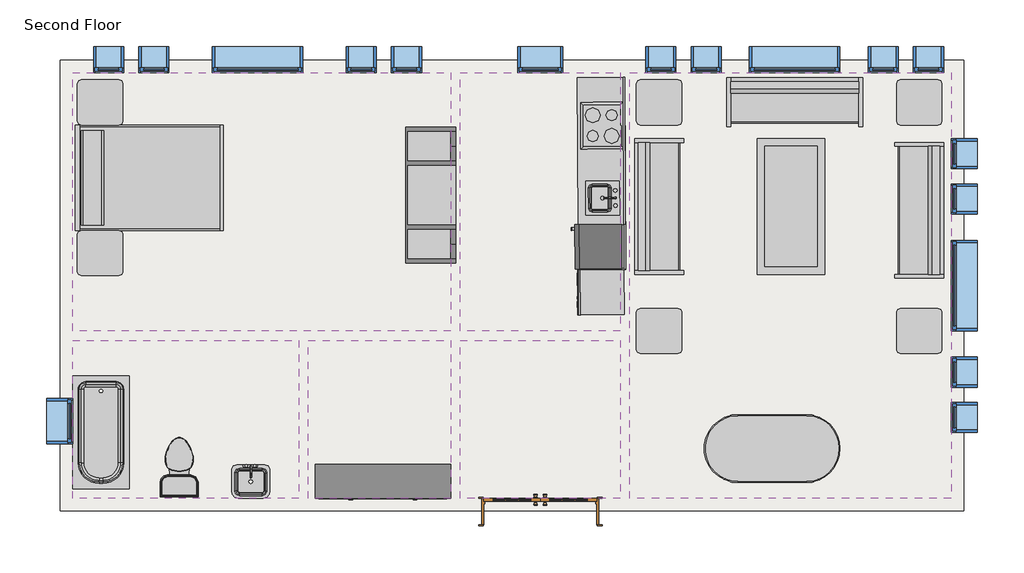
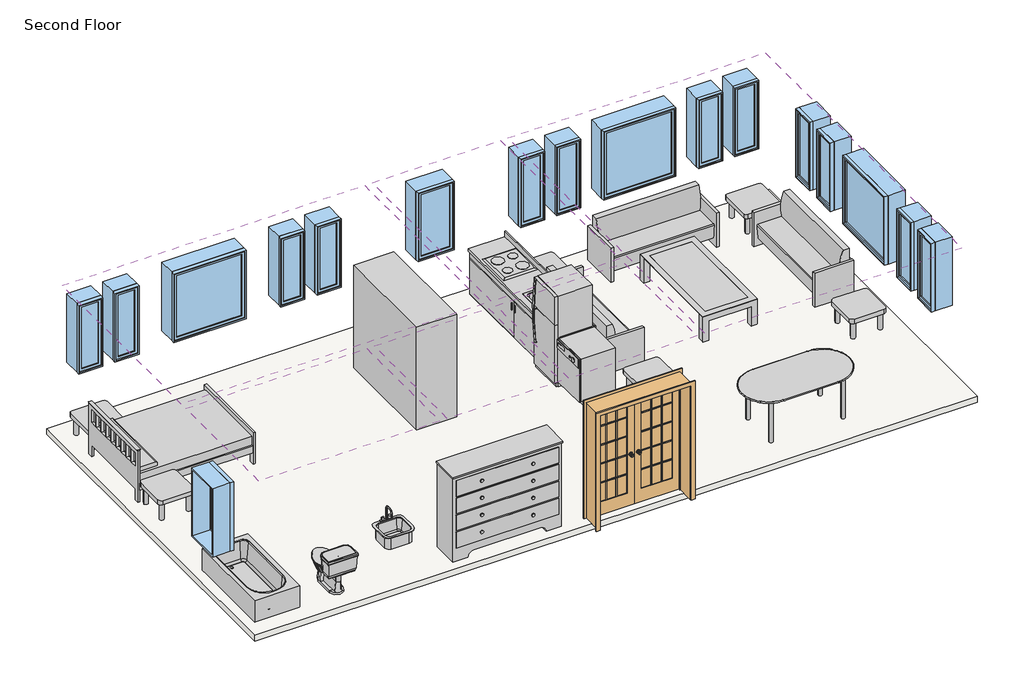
# One storey, incomplete: 17 windows, 15 furniture elements, 6 coverings, 4 flow terminals, 4 proxies, 1 door, 1 slab.
"""IFC4 building model written with IfcOpenShell, lengths in millimetres."""

from ifc_helpers import new_model, si_unit, frame, origin, place, context, project, spatial, polyline, outline, extrude, transform, mapped, element, save
from components import proxy_a6faaae8, proxy_45b28599, proxy_a6516e2b, proxy_c523a7b7, door_bfa3c7dc, flow_terminal_871c2e40, flow_terminal_62a433f7, toilet_domestic_3d_toilet_domestic_3d_f7549cf7, toilet_domestic_3d_toilet_domestic_3d_183bbd19, tub_rectangular_3d_tub_rectangular_3d_c56944d8, furniture_096e7f55, furniture_dc2eca4b, furniture_7c473f12, furniture_cf0b6580, furniture_a4ffab56, furniture_cd93a443, furniture_2c34a4f9, furniture_3a588284, window_da97879f, window_d61ef850, window_60baf983, window_6eb97611

model = new_model("IFC4")

# Units and contexts
model_context = context("Model", 3, world=origin())
ifc_project = project(units=[si_unit("LENGTHUNIT", "METRE", prefix="MILLI")], contexts=[model_context])

# Site, building, storey
site = spatial("IfcSite", under=ifc_project)
building = spatial("IfcBuilding", under=site)
storey = spatial("IfcBuildingStorey", under=building, Name="Second Floor", Elevation=3048.0)

# Proxies
placement = place(None, origin())
proxy_shape = proxy_a6faaae8(model_context)
element("IfcBuildingElementProxy", 1, Name="Cook Top-4 Unit2 : 22\" x 20\"", ObjectType="Cook Top-4 Unit2 : 22\" x 20\"", at=placement, inside=storey, context=model_context, shape_type="MappedRepresentation", body=[
    mapped(proxy_shape, transform((2899.8636904, 5211.0114446, 3048.0), x_axis=(0.006017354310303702, -0.9999818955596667, 0.0), y_axis=(0.9999818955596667, 0.006017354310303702, 0.0), z_axis=(0.0, 0.0, 1.0))),
])
proxy_2_shape = proxy_45b28599(model_context)
element("IfcBuildingElementProxy", 2, Name="Dishwasher : 24\" x 24\" x 34\"", ObjectType="Dishwasher : 24\" x 24\" x 34\"", at=placement, inside=storey, context=model_context, shape_type="MappedRepresentation", body=[
    mapped(proxy_2_shape, transform((2619.2452805, 3343.7065262, 3048.0), x_axis=(0.006017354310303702, -0.9999818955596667, 0.0), y_axis=(0.9999818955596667, 0.006017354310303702, 0.0), z_axis=(0.0, 0.0, 1.0))),
])
proxy_3_shape = proxy_a6516e2b(model_context)
element("IfcBuildingElementProxy", 3, Name="Kitchenette - Medium : 8'6\"", ObjectType="Kitchenette - Medium : 8'6\"", at=placement, inside=storey, context=model_context, shape_type="MappedRepresentation", body=[
    mapped(proxy_3_shape, transform((3208.4428612, 4583.8946262, 3048.0), x_axis=(0.006017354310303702, -0.9999818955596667, 0.0), y_axis=(0.9999818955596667, 0.006017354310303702, 0.0), z_axis=(0.0, 0.0, 1.0))),
])
proxy_4_shape = proxy_c523a7b7(model_context)
element("IfcBuildingElementProxy", 4, Name="Refrigerator : 24\" x 25\" LH", ObjectType="Refrigerator : 24\" x 25\" LH", at=placement, inside=storey, context=model_context, shape_type="MappedRepresentation", body=[
    mapped(proxy_4_shape, transform((2864.0355668, 3578.8163041, 3048.0), x_axis=(0.006017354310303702, -0.9999818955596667, 0.0), y_axis=(0.9999818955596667, 0.006017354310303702, 0.0), z_axis=(0.0, 0.0, 1.0))),
])

# Coverings
element("IfcCovering", 5, ObjectType="GWB on Mtl. Stud", at=placement, inside=storey, context=model_context, shape_type="SweptSolid", body=[
    extrude(outline(polyline([(-4235.3446388, 5924.893319), (858.9428612, 5924.893319), (858.9428612, 2441.918319), (-4235.3446388, 2441.918319), (-4235.3446388, 5924.893319)])), frame((0.0, 0.0, 5638.8), z_axis=(0.0, 0.0, 1.0), x_axis=(1.0, 0.0, 0.0)), (0.0, 0.0, 1.0), 107.95),
])
element("IfcCovering", 6, ObjectType="GWB on Mtl. Stud", at=placement, inside=storey, context=model_context, shape_type="SweptSolid", body=[
    extrude(outline(polyline([(985.9428612, 2441.918319), (985.9428612, 5924.893319), (3144.9428612, 5924.893319), (3144.9428612, 2441.918319), (985.9428612, 2441.918319)])), frame((0.0, 0.0, 5638.8), z_axis=(0.0, 0.0, 1.0), x_axis=(1.0, 0.0, 0.0)), (0.0, 0.0, 1.0), 107.95),
])
element("IfcCovering", 7, ObjectType="GWB on Mtl. Stud", at=placement, inside=storey, context=model_context, shape_type="SweptSolid", body=[
    extrude(outline(polyline([(3271.9428612, 181.318319), (3271.9428612, 5924.893319), (7604.2303612, 5924.893319), (7604.2303612, 181.318319), (3271.9428612, 181.318319)])), frame((0.0, 0.0, 5638.8), z_axis=(0.0, 0.0, 1.0), x_axis=(1.0, 0.0, 0.0)), (0.0, 0.0, 1.0), 107.95),
])
element("IfcCovering", 8, ObjectType="GWB on Mtl. Stud", at=placement, inside=storey, context=model_context, shape_type="SweptSolid", body=[
    extrude(outline(polyline([(-1187.3446388, 2314.918319), (-1187.3446388, 181.318319), (-4235.3446388, 181.318319), (-4235.3446388, 2314.918319), (-1187.3446388, 2314.918319)])), frame((0.0, 0.0, 5638.8), z_axis=(0.0, 0.0, 1.0), x_axis=(1.0, 0.0, 0.0)), (0.0, 0.0, 1.0), 107.95),
])
element("IfcCovering", 9, ObjectType="GWB on Mtl. Stud", at=placement, inside=storey, context=model_context, shape_type="SweptSolid", body=[
    extrude(outline(polyline([(858.9428612, 181.318319), (-1060.3446388, 181.318319), (-1060.3446388, 2314.918319), (858.9428612, 2314.918319), (858.9428612, 181.318319)])), frame((0.0, 0.0, 5638.8), z_axis=(0.0, 0.0, 1.0), x_axis=(1.0, 0.0, 0.0)), (0.0, 0.0, 1.0), 107.95),
])
element("IfcCovering", 10, ObjectType="GWB on Mtl. Stud", at=placement, inside=storey, context=model_context, shape_type="SweptSolid", body=[
    extrude(outline(polyline([(3144.9428612, 181.318319), (985.9428612, 181.318319), (985.9428612, 2314.918319), (3144.9428612, 2314.918319), (3144.9428612, 181.318319)])), frame((0.0, 0.0, 5638.8), z_axis=(0.0, 0.0, 1.0), x_axis=(1.0, 0.0, 0.0)), (0.0, 0.0, 1.0), 107.95),
])

# Door
door_shape = door_bfa3c7dc(model_context)
element("IfcDoor", 11, ObjectType="Door-Interior-Double-Full Glass-Wood : 60\" x 80\"", at=placement, inside=storey, context=model_context, shape_type="MappedRepresentation", body=[
    mapped(door_shape, transform((2065.4428612, 8.280819, 3048.0), x_axis=(1.0, 0.0, 0.0), y_axis=(0.0, 1.0, 0.0), z_axis=(0.0, 0.0, 1.0))),
])

# Flow terminals
flow_terminal_shape = flow_terminal_871c2e40(model_context)
element("IfcFlowTerminal", 12, ObjectType="Sink Kitchen-Island : 18\" x 18\"", at=placement, inside=storey, context=model_context, shape_type="MappedRepresentation", body=[
    mapped(flow_terminal_shape, transform((2903.3082949, 4248.8039924, 3033.6), x_axis=(0.006017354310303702, -0.9999818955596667, 0.0), y_axis=(0.9999818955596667, 0.006017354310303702, 0.0), z_axis=(0.0, 0.0, 1.0))),
])
flow_terminal_2_shape = flow_terminal_62a433f7(model_context)
element("IfcFlowTerminal", 13, ObjectType="Sink Vanity-Square : 20\" x 18\"", at=placement, inside=storey, context=model_context, shape_type="MappedRepresentation", body=[
    mapped(flow_terminal_2_shape, transform((-1850.7338794, 458.3729179, 3048.0), x_axis=(1.0, 0.0, 0.0), y_axis=(0.0, 1.0, 0.0), z_axis=(0.0, 0.0, 1.0))),
])
toilet_domestic_3d_toilet_domestic_3d_shape = toilet_domestic_3d_toilet_domestic_3d_f7549cf7(model_context)
toilet_domestic_3d_toilet_domestic_3d_2_shape = toilet_domestic_3d_toilet_domestic_3d_183bbd19(model_context)
element("IfcFlowTerminal", 14, ObjectType="Toilet-Domestic-3D : Toilet-Domestic-3D", at=placement, inside=storey, context=model_context, shape_type="MappedRepresentation", body=[
    mapped(toilet_domestic_3d_toilet_domestic_3d_shape, transform((-2800.2446388, 702.018319, 3048.0), x_axis=(-1.0, 0.0, 0.0), y_axis=(0.0, -1.0, 0.0), z_axis=(0.0, 0.0, 1.0))),
    mapped(toilet_domestic_3d_toilet_domestic_3d_2_shape, transform((-2800.2446388, 702.018319, 3048.0), x_axis=(-1.0, 0.0, 0.0), y_axis=(0.0, -1.0, 0.0), z_axis=(0.0, 0.0, 1.0))),
])
tub_rectangular_3d_tub_rectangular_3d_shape = tub_rectangular_3d_tub_rectangular_3d_c56944d8(model_context)
element("IfcFlowTerminal", 15, ObjectType="Tub-Rectangular-3D : Tub-Rectangular-3D", at=placement, inside=storey, context=model_context, shape_type="MappedRepresentation", body=[
    mapped(tub_rectangular_3d_tub_rectangular_3d_shape, transform((-4411.5571388, 723.3028503, 3048.0), x_axis=(0.0, -1.0, 0.0), y_axis=(1.0, 0.0, 0.0), z_axis=(0.0, 0.0, 1.0))),
])

# Furniture
furniture_shape = furniture_096e7f55(model_context)
element("IfcFurniture", 16, ObjectType="Bed-Shaker : Double 56\" x 78\"", at=placement, inside=storey, context=model_context, shape_type="MappedRepresentation", body=[
    mapped(furniture_shape, transform((-4190.1896154, 4526.4534268, 3048.0), x_axis=(-0.00030117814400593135, 0.9999999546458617, 0.0), y_axis=(-0.9999999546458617, -0.00030117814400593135, 0.0), z_axis=(0.0, 0.0, 1.0))),
])
furniture_2_shape = furniture_dc2eca4b(model_context)
element("IfcFurniture", 17, ObjectType="Counter Top w Sink Hole : 24\" Depth", at=placement, inside=storey, context=model_context, shape_type="MappedRepresentation", body=[
    mapped(furniture_2_shape, transform((3207.9843388, 4660.0932466, 3033.6), x_axis=(0.006017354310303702, -0.9999818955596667, 0.0), y_axis=(0.9999818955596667, 0.006017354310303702, 0.0), z_axis=(0.0, 0.0, 1.0))),
])
furniture_3_shape = furniture_7c473f12(model_context)
element("IfcFurniture", 18, ObjectType="Dresser : 72\" x 60\" x 18\"", at=placement, inside=storey, context=model_context, shape_type="MappedRepresentation", body=[
    mapped(furniture_3_shape, transform((213.736121, 773.0812731, 3048.0), x_axis=(1.0, 0.0, 0.0), y_axis=(0.0, 1.0, 0.0), z_axis=(0.0, 0.0, 1.0))),
])
furniture_4_shape = furniture_cf0b6580(model_context)
element("IfcFurniture", 19, ObjectType="Entertainment Center : 72\" x 72\" x 24\"", at=placement, inside=storey, context=model_context, shape_type="MappedRepresentation", body=[
    mapped(furniture_4_shape, transform((147.7428612, 4272.305819, 3048.0), x_axis=(0.0, 1.0, 0.0), y_axis=(-1.0, 0.0, 0.0), z_axis=(0.0, 0.0, 1.0))),
])
furniture_5_shape = furniture_a4ffab56(model_context)
element("IfcFurniture", 20, ObjectType="Sofa : 72\"", at=placement, inside=storey, context=model_context, shape_type="MappedRepresentation", body=[
    mapped(furniture_5_shape, transform((5424.0723694, 5377.3466921, 3048.0), x_axis=(1.0, 0.0, 0.0), y_axis=(0.0, 1.0, 0.0), z_axis=(0.0, 0.0, 1.0))),
])
element("IfcFurniture", 21, ObjectType="Sofa : 72\"", at=placement, inside=storey, context=model_context, shape_type="MappedRepresentation", body=[
    mapped(furniture_5_shape, transform((3811.7969596, 4049.5353272, 3048.0), x_axis=(0.0, 1.0000000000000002, 0.0), y_axis=(-1.0000000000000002, 0.0, 0.0), z_axis=(0.0, 0.0, 1.0))),
])
element("IfcFurniture", 22, ObjectType="Sofa : 72\"", at=placement, inside=storey, context=model_context, shape_type="MappedRepresentation", body=[
    mapped(furniture_5_shape, transform((7024.6887628, 4139.4763108, 3048.0), x_axis=(0.0, -1.0, 0.0), y_axis=(1.0, 0.0, 0.0), z_axis=(0.0, 0.0, 1.0))),
])
furniture_6_shape = furniture_cd93a443(model_context)
element("IfcFurniture", 23, ObjectType="Table-Coffee : 36\" x 72\" x 18\"", at=placement, inside=storey, context=model_context, shape_type="MappedRepresentation", body=[
    mapped(furniture_6_shape, transform((5538.853939, 4101.6400523, 3048.0), x_axis=(0.0, 1.0, 0.0), y_axis=(-1.0, 0.0, 0.0), z_axis=(0.0, 0.0, 1.0))),
])
furniture_7_shape = furniture_2c34a4f9(model_context)
element("IfcFurniture", 24, ObjectType="Table-Dining Oval : 36\" x 72\"", at=placement, inside=storey, context=model_context, shape_type="MappedRepresentation", body=[
    mapped(furniture_7_shape, transform((5591.4625333, 1212.5166797, 3048.0), x_axis=(1.0, 0.0, 0.0), y_axis=(0.0, 1.0, 0.0), z_axis=(0.0, 0.0, 1.0))),
])
furniture_8_shape = furniture_3a588284(model_context)
element("IfcFurniture", 25, ObjectType="Table-End : 24\" x 24\"", at=placement, inside=storey, context=model_context, shape_type="MappedRepresentation", body=[
    mapped(furniture_8_shape, transform((-4175.5782691, 5371.1007905, 3048.0), x_axis=(1.0, 0.0, 0.0), y_axis=(0.0, 1.0, 0.0), z_axis=(0.0, 0.0, 1.0))),
])
element("IfcFurniture", 26, ObjectType="Table-End : 24\" x 24\"", at=placement, inside=storey, context=model_context, shape_type="MappedRepresentation", body=[
    mapped(furniture_8_shape, transform((-4175.5782691, 3339.0089188, 3048.0), x_axis=(1.0, 0.0, 0.0), y_axis=(0.0, 1.0, 0.0), z_axis=(0.0, 0.0, 1.0))),
])
element("IfcFurniture", 27, ObjectType="Table-End : 24\" x 24\"", at=placement, inside=storey, context=model_context, shape_type="MappedRepresentation", body=[
    mapped(furniture_8_shape, transform((3357.1092309, 5371.1007905, 3048.0), x_axis=(1.0, 0.0, 0.0), y_axis=(0.0, 1.0, 0.0), z_axis=(0.0, 0.0, 1.0))),
])
element("IfcFurniture", 28, ObjectType="Table-End : 24\" x 24\"", at=placement, inside=storey, context=model_context, shape_type="MappedRepresentation", body=[
    mapped(furniture_8_shape, transform((3357.1092309, 2289.518319, 3048.0), x_axis=(1.0, 0.0, 0.0), y_axis=(0.0, 1.0, 0.0), z_axis=(0.0, 0.0, 1.0))),
])
element("IfcFurniture", 29, ObjectType="Table-End : 24\" x 24\"", at=placement, inside=storey, context=model_context, shape_type="MappedRepresentation", body=[
    mapped(furniture_8_shape, transform((6862.3092309, 2289.518319, 3048.0), x_axis=(1.0, 0.0, 0.0), y_axis=(0.0, 1.0, 0.0), z_axis=(0.0, 0.0, 1.0))),
])
element("IfcFurniture", 30, ObjectType="Table-End : 24\" x 24\"", at=placement, inside=storey, context=model_context, shape_type="MappedRepresentation", body=[
    mapped(furniture_8_shape, transform((6862.3092309, 5371.1007905, 3048.0), x_axis=(1.0, 0.0, 0.0), y_axis=(0.0, 1.0, 0.0), z_axis=(0.0, 0.0, 1.0))),
])

# Slab
element("IfcSlab", 31, ObjectType="LW Concrete on Metal Deck", at=placement, inside=storey, context=model_context, shape_type="SweptSolid", body=[
    extrude(outline(polyline([(7769.3303612, 6089.993319), (7769.3303612, 16.218319), (-4400.4446388, 16.218319), (-4400.4446388, 6089.993319), (7769.3303612, 6089.993319)])), frame((0.0, 0.0, 2943.225), z_axis=(0.0, 0.0, 1.0), x_axis=(1.0, 0.0, 0.0)), (0.0, 0.0, 1.0), 104.775),
])

# Windows
window_shape = window_da97879f(model_context)
element("IfcWindow", 32, ObjectType="Fixed : 16\" x 48\"", at=placement, inside=storey, context=model_context, shape_type="MappedRepresentation", body=[
    mapped(window_shape, transform((-3789.2571388, 6101.105819, 3048.0), x_axis=(-1.0, 0.0, 0.0), y_axis=(0.0, -1.0, 0.0), z_axis=(0.0, 0.0, 1.0))),
])
element("IfcWindow", 33, ObjectType="Fixed : 16\" x 48\"", at=placement, inside=storey, context=model_context, shape_type="MappedRepresentation", body=[
    mapped(window_shape, transform((-3179.6571388, 6101.105819, 3048.0), x_axis=(-1.0, 0.0, 0.0), y_axis=(0.0, -1.0, 0.0), z_axis=(0.0, 0.0, 1.0))),
])
element("IfcWindow", 34, ObjectType="Fixed : 16\" x 48\"", at=placement, inside=storey, context=model_context, shape_type="MappedRepresentation", body=[
    mapped(window_shape, transform((3652.9428612, 6101.105819, 3048.0), x_axis=(-1.0, 0.0, 0.0), y_axis=(0.0, -1.0, 0.0), z_axis=(0.0, 0.0, 1.0))),
])
element("IfcWindow", 35, ObjectType="Fixed : 16\" x 48\"", at=placement, inside=storey, context=model_context, shape_type="MappedRepresentation", body=[
    mapped(window_shape, transform((4262.5428612, 6101.105819, 3048.0), x_axis=(-1.0, 0.0, 0.0), y_axis=(0.0, -1.0, 0.0), z_axis=(0.0, 0.0, 1.0))),
])
element("IfcWindow", 36, ObjectType="Fixed : 16\" x 48\"", at=placement, inside=storey, context=model_context, shape_type="MappedRepresentation", body=[
    mapped(window_shape, transform((7780.4428612, 4869.205819, 3048.0), x_axis=(0.0, 1.0, 0.0), y_axis=(-1.0, 0.0, 0.0), z_axis=(0.0, 0.0, 1.0))),
])
element("IfcWindow", 37, ObjectType="Fixed : 16\" x 48\"", at=placement, inside=storey, context=model_context, shape_type="MappedRepresentation", body=[
    mapped(window_shape, transform((7780.4428612, 4259.605819, 3048.0), x_axis=(0.0, 1.0, 0.0), y_axis=(-1.0, 0.0, 0.0), z_axis=(0.0, 0.0, 1.0))),
])
window_2_shape = window_d61ef850(model_context)
element("IfcWindow", 38, ObjectType="Fixed : 16\" x 48\"", at=placement, inside=storey, context=model_context, shape_type="MappedRepresentation", body=[
    mapped(window_2_shape, transform((300.1428612, 6101.105819, 3048.0), x_axis=(1.0, 0.0, 0.0), y_axis=(0.0, 1.0, 0.0), z_axis=(0.0, 0.0, 1.0))),
])
element("IfcWindow", 39, ObjectType="Fixed : 16\" x 48\"", at=placement, inside=storey, context=model_context, shape_type="MappedRepresentation", body=[
    mapped(window_2_shape, transform((-309.4571388, 6101.105819, 3048.0), x_axis=(1.0, 0.0, 0.0), y_axis=(0.0, 1.0, 0.0), z_axis=(0.0, 0.0, 1.0))),
])
element("IfcWindow", 40, ObjectType="Fixed : 16\" x 48\"", at=placement, inside=storey, context=model_context, shape_type="MappedRepresentation", body=[
    mapped(window_2_shape, transform((7335.9428612, 6101.105819, 3048.0), x_axis=(1.0, 0.0, 0.0), y_axis=(0.0, 1.0, 0.0), z_axis=(0.0, 0.0, 1.0))),
])
element("IfcWindow", 41, ObjectType="Fixed : 16\" x 48\"", at=placement, inside=storey, context=model_context, shape_type="MappedRepresentation", body=[
    mapped(window_2_shape, transform((6726.3428612, 6101.105819, 3048.0), x_axis=(1.0, 0.0, 0.0), y_axis=(0.0, 1.0, 0.0), z_axis=(0.0, 0.0, 1.0))),
])
element("IfcWindow", 42, ObjectType="Fixed : 16\" x 48\"", at=placement, inside=storey, context=model_context, shape_type="MappedRepresentation", body=[
    mapped(window_2_shape, transform((7780.4428612, 1237.005819, 3048.0), x_axis=(0.0, -1.0, 0.0), y_axis=(1.0, 0.0, 0.0), z_axis=(0.0, 0.0, 1.0))),
])
element("IfcWindow", 43, ObjectType="Fixed : 16\" x 48\"", at=placement, inside=storey, context=model_context, shape_type="MappedRepresentation", body=[
    mapped(window_2_shape, transform((7780.4428612, 1846.605819, 3048.0), x_axis=(0.0, -1.0, 0.0), y_axis=(1.0, 0.0, 0.0), z_axis=(0.0, 0.0, 1.0))),
])
window_3_shape = window_60baf983(model_context)
element("IfcWindow", 44, ObjectType="Fixed : 24\" x 48\"", at=placement, inside=storey, context=model_context, shape_type="MappedRepresentation", body=[
    mapped(window_3_shape, transform((2027.3428612, 6101.105819, 3048.0), x_axis=(-1.0, 0.0, 0.0), y_axis=(0.0, -1.0, 0.0), z_axis=(0.0, 0.0, 1.0))),
])
element("IfcWindow", 45, ObjectType="Fixed : 24\" x 48\"", at=placement, inside=storey, context=model_context, shape_type="MappedRepresentation", body=[
    mapped(window_3_shape, transform((-4411.5571388, 1186.205819, 3048.0), x_axis=(0.0, -1.0, 0.0), y_axis=(1.0, 0.0, 0.0), z_axis=(0.0, 0.0, 1.0))),
])
window_4_shape = window_6eb97611(model_context)
element("IfcWindow", 46, ObjectType="Fixed : 48\" x 48\"", at=placement, inside=storey, context=model_context, shape_type="MappedRepresentation", body=[
    mapped(window_4_shape, transform((-1782.6571388, 6101.105819, 3048.0), x_axis=(-1.0, 0.0, 0.0), y_axis=(0.0, -1.0, 0.0), z_axis=(0.0, 0.0, 1.0))),
])
element("IfcWindow", 47, ObjectType="Fixed : 48\" x 48\"", at=placement, inside=storey, context=model_context, shape_type="MappedRepresentation", body=[
    mapped(window_4_shape, transform((5456.3428612, 6101.105819, 3048.0), x_axis=(-1.0, 0.0, 0.0), y_axis=(0.0, -1.0, 0.0), z_axis=(0.0, 0.0, 1.0))),
])
element("IfcWindow", 48, ObjectType="Fixed : 48\" x 48\"", at=placement, inside=storey, context=model_context, shape_type="MappedRepresentation", body=[
    mapped(window_4_shape, transform((7780.4428612, 3091.205819, 3048.0), x_axis=(0.0, 1.0, 0.0), y_axis=(-1.0, 0.0, 0.0), z_axis=(0.0, 0.0, 1.0))),
])

save(model, "model.ifc")
